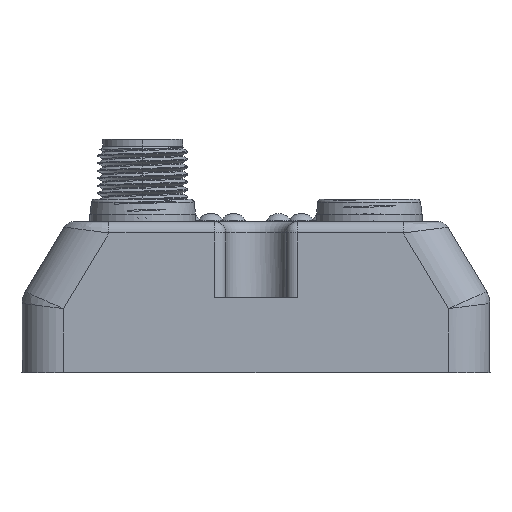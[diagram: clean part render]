
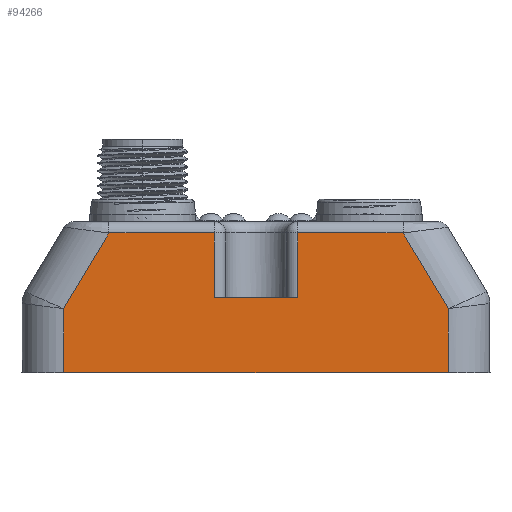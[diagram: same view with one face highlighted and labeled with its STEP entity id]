
A CAD part, left-side view. The second image highlights one B-rep face of the part: STEP entity #94266.
In plain terms, the highlighted planar face has unit normal (-1, 0, 0).
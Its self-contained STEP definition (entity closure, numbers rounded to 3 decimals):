
#4289=CARTESIAN_POINT('',(-100.,19.486,8.5));
#4296=DIRECTION('',(0.,-1.,0.));
#4297=VECTOR('',#4296,13.986);
#4298=CARTESIAN_POINT('',(-100.,19.486,8.5));
#4299=LINE('',#4298,#4297);
#4304=DIRECTION('',(0.,0.514,-0.857));
#4305=VECTOR('',#4304,11.689);
#4306=CARTESIAN_POINT('',(-100.,19.486,8.5));
#4307=LINE('',#4306,#4305);
#4308=DIRECTION('',(0.,0.514,0.857));
#4309=VECTOR('',#4308,11.689);
#4310=CARTESIAN_POINT('',(-100.,-25.5,
-1.523));
#4311=LINE('',#4310,#4309);
#4432=CARTESIAN_POINT('',(-100.,-25.5,
-1.523));
#4736=DIRECTION('',(0.,1.,0.));
#4737=VECTOR('',#4736,51.);
#4738=CARTESIAN_POINT('',(-100.,-25.5,-10.));
#4739=LINE('',#4738,#4737);
#4818=DIRECTION('',(0.,0.,1.));
#4819=VECTOR('',#4818,8.477);
#4820=CARTESIAN_POINT('',(-100.,25.5,-10.));
#4821=LINE('',#4820,#4819);
#4896=DIRECTION('',(0.,0.,-1.));
#4897=VECTOR('',#4896,8.477);
#4898=CARTESIAN_POINT('',(-100.,-25.5,
-1.523));
#4899=LINE('',#4898,#4897);
#5019=DIRECTION('',(0.,-1.,0.));
#5020=VECTOR('',#5019,11.);
#5021=CARTESIAN_POINT('',(-100.,5.5,0.));
#5022=LINE('',#5021,#5020);
#5048=DIRECTION('',(0.,0.,1.));
#5049=VECTOR('',#5048,8.5);
#5050=CARTESIAN_POINT('',(-100.,-5.5,0.));
#5051=LINE('',#5050,#5049);
#5099=DIRECTION('',(0.,0.,-1.));
#5100=VECTOR('',#5099,8.5);
#5101=CARTESIAN_POINT('',(-100.,5.5,8.5));
#5102=LINE('',#5101,#5100);
#5150=DIRECTION('',(0.,-1.,0.));
#5151=VECTOR('',#5150,13.986);
#5152=CARTESIAN_POINT('',(-100.,-5.5,8.5));
#5153=LINE('',#5152,#5151);
#87055=CARTESIAN_POINT('',(-100.,-5.5,0.));
#87057=VERTEX_POINT('',#87055);
#87114=CARTESIAN_POINT('',(-100.,5.5,8.5));
#87116=VERTEX_POINT('',#87114);
#87152=CARTESIAN_POINT('',(-100.,-19.486,8.5));
#87154=VERTEX_POINT('',#87152);
#87337=CARTESIAN_POINT('',(-100.,-5.5,8.5));
#87339=VERTEX_POINT('',#87337);
#87464=VERTEX_POINT('',#4432);
#87524=CARTESIAN_POINT('',(-100.,5.5,0.));
#87526=VERTEX_POINT('',#87524);
#87588=CARTESIAN_POINT('',(-100.,25.5,-10.));
#87589=CARTESIAN_POINT('',(-100.,25.5,-1.523));
#87590=VERTEX_POINT('',#87588);
#87591=VERTEX_POINT('',#87589);
#87914=VERTEX_POINT('',#4289);
#88287=CARTESIAN_POINT('',(-100.,-25.5,-10.));
#88288=VERTEX_POINT('',#88287);
#94240=CARTESIAN_POINT('',(-100.,31.,-10.));
#94241=DIRECTION('',(-1.,0.,0.));
#94242=DIRECTION('',(0.,0.,1.));
#94243=AXIS2_PLACEMENT_3D('',#94240,#94241,#94242);
#94244=PLANE('',#94243);
#94246=ORIENTED_EDGE('',*,*,#94245,.F.);
#94247=ORIENTED_EDGE('',*,*,#94224,.T.);
#94249=ORIENTED_EDGE('',*,*,#94248,.T.);
#94251=ORIENTED_EDGE('',*,*,#94250,.T.);
#94253=ORIENTED_EDGE('',*,*,#94252,.T.);
#94255=ORIENTED_EDGE('',*,*,#94254,.T.);
#94257=ORIENTED_EDGE('',*,*,#94256,.F.);
#94259=ORIENTED_EDGE('',*,*,#94258,.T.);
#94261=ORIENTED_EDGE('',*,*,#94260,.T.);
#94263=ORIENTED_EDGE('',*,*,#94262,.T.);
#94264=EDGE_LOOP('',(#94246,#94247,#94249,#94251,#94253,#94255,#94257,#94259,
#94261,#94263));
#94265=FACE_OUTER_BOUND('',#94264,.F.);
#94224=EDGE_CURVE('',#87914,#87116,#4299,.T.);
#94245=EDGE_CURVE('',#87914,#87591,#4307,.T.);
#94248=EDGE_CURVE('',#87116,#87526,#5102,.T.);
#94250=EDGE_CURVE('',#87526,#87057,#5022,.T.);
#94252=EDGE_CURVE('',#87057,#87339,#5051,.T.);
#94254=EDGE_CURVE('',#87339,#87154,#5153,.T.);
#94256=EDGE_CURVE('',#87464,#87154,#4311,.T.);
#94258=EDGE_CURVE('',#87464,#88288,#4899,.T.);
#94260=EDGE_CURVE('',#88288,#87590,#4739,.T.);
#94262=EDGE_CURVE('',#87590,#87591,#4821,.T.);
#94266=ADVANCED_FACE('',(#94265),#94244,.T.);
